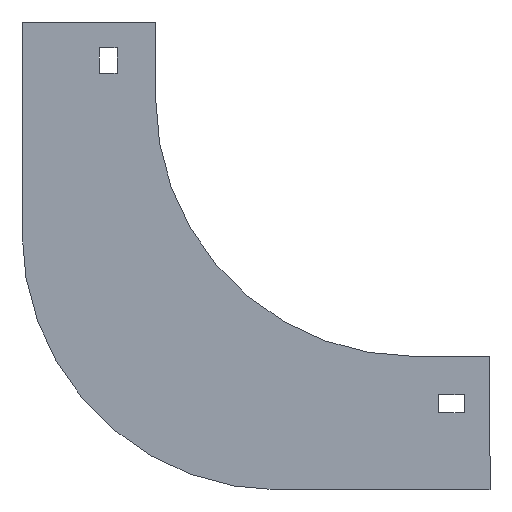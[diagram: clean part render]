
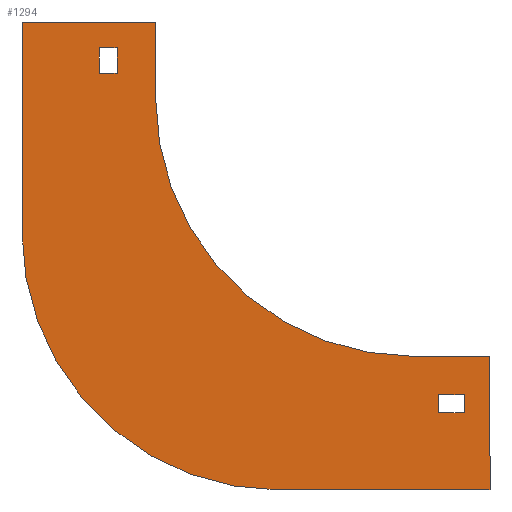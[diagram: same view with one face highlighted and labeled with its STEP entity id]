
A CAD part, left-side view. The second image highlights one B-rep face of the part: STEP entity #1294.
In plain terms, the highlighted planar face has unit normal (-1, 0, 0).
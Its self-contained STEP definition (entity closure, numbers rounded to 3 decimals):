
#3 = EDGE_CURVE ( 'NONE', #228, #414, #133, .T. ) ;
#11 = DIRECTION ( 'NONE',  ( 0., 0., 1. ) ) ;
#18 = EDGE_CURVE ( 'NONE', #216, #292, #1133, .T. ) ;
#34 = LINE ( 'NONE', #1108, #1388 ) ;
#37 = CARTESIAN_POINT ( 'NONE',  ( -39.5, 22., -20. ) ) ;
#43 = VECTOR ( 'NONE', #1386, 1000. ) ;
#71 = LINE ( 'NONE', #601, #259 ) ;
#76 = VECTOR ( 'NONE', #391, 1000. ) ;
#82 = DIRECTION ( 'NONE',  ( 1., 0., 0. ) ) ;
#86 = EDGE_CURVE ( 'NONE', #1118, #1012, #1318, .T. ) ;
#95 = ORIENTED_EDGE ( 'NONE', *, *, #97, .F. ) ;
#96 = VECTOR ( 'NONE', #192, 1000. ) ;
#97 = EDGE_CURVE ( 'NONE', #838, #341, #1176, .T. ) ;
#115 = CARTESIAN_POINT ( 'NONE',  ( -39.5, 0., 0. ) ) ;
#129 = ORIENTED_EDGE ( 'NONE', *, *, #1192, .F. ) ;
#133 = LINE ( 'NONE', #1310, #1055 ) ;
#145 = LINE ( 'NONE', #777, #793 ) ;
#146 = DIRECTION ( 'NONE',  ( 0., 1., 0. ) ) ;
#171 = DIRECTION ( 'NONE',  ( 0., -1., 0. ) ) ;
#173 = CARTESIAN_POINT ( 'NONE',  ( -39.5, 15., -10. ) ) ;
#174 = ORIENTED_EDGE ( 'NONE', *, *, #873, .F. ) ;
#187 = VECTOR ( 'NONE', #524, 1000. ) ;
#191 = AXIS2_PLACEMENT_3D ( 'NONE', #627, #657, #857 ) ;
#192 = DIRECTION ( 'NONE',  ( 0., 0., -1. ) ) ;
#200 = VERTEX_POINT ( 'NONE', #236 ) ;
#203 = ORIENTED_EDGE ( 'NONE', *, *, #558, .F. ) ;
#216 = VERTEX_POINT ( 'NONE', #37 ) ;
#228 = VERTEX_POINT ( 'NONE', #942 ) ;
#230 = EDGE_CURVE ( 'NONE', #911, #658, #623, .T. ) ;
#233 = EDGE_CURVE ( 'NONE', #1019, #1333, #1377, .T. ) ;
#236 = CARTESIAN_POINT ( 'NONE',  ( -39.5, 15., -10. ) ) ;
#238 = VERTEX_POINT ( 'NONE', #640 ) ;
#241 = CARTESIAN_POINT ( 'NONE',  ( -39.5, -100., -130. ) ) ;
#248 = CARTESIAN_POINT ( 'NONE',  ( -39.5, 0., -30. ) ) ;
#259 = VECTOR ( 'NONE', #816, 1000. ) ;
#290 = VECTOR ( 'NONE', #146, 1000. ) ;
#292 = VERTEX_POINT ( 'NONE', #665 ) ;
#309 = LINE ( 'NONE', #1193, #1302 ) ;
#310 = LINE ( 'NONE', #115, #642 ) ;
#316 = ORIENTED_EDGE ( 'NONE', *, *, #763, .F. ) ;
#330 = CARTESIAN_POINT ( 'NONE',  ( -39.5, 0., 0. ) ) ;
#341 = VERTEX_POINT ( 'NONE', #241 ) ;
#344 = ORIENTED_EDGE ( 'NONE', *, *, #985, .F. ) ;
#363 = ORIENTED_EDGE ( 'NONE', *, *, #936, .T. ) ;
#364 = DIRECTION ( 'NONE',  ( 0., 0., -1. ) ) ;
#373 = EDGE_CURVE ( 'NONE', #1279, #216, #1001, .T. ) ;
#391 = DIRECTION ( 'NONE',  ( 0., 0., 1. ) ) ;
#414 = VERTEX_POINT ( 'NONE', #785 ) ;
#425 = ORIENTED_EDGE ( 'NONE', *, *, #86, .F. ) ;
#427 = PLANE ( 'NONE',  #191 ) ;
#446 = VECTOR ( 'NONE', #1259, 1000. ) ;
#447 = CARTESIAN_POINT ( 'NONE',  ( -39.5, -110., -145. ) ) ;
#449 = ORIENTED_EDGE ( 'NONE', *, *, #1112, .F. ) ;
#463 = DIRECTION ( 'NONE',  ( -1., 0., 0. ) ) ;
#468 = ORIENTED_EDGE ( 'NONE', *, *, #18, .T. ) ;
#470 = DIRECTION ( 'NONE',  ( 0., -1., 0. ) ) ;
#487 = ORIENTED_EDGE ( 'NONE', *, *, #233, .F. ) ;
#514 = DIRECTION ( 'NONE',  ( 0., 0., -1. ) ) ;
#524 = DIRECTION ( 'NONE',  ( 0., -1., 0. ) ) ;
#535 = ORIENTED_EDGE ( 'NONE', *, *, #3, .F. ) ;
#558 = EDGE_CURVE ( 'NONE', #238, #1118, #622, .T. ) ;
#561 = DIRECTION ( 'NONE',  ( 0., -1., 0. ) ) ;
#572 = CARTESIAN_POINT ( 'NONE',  ( -39.5, -100., -30. ) ) ;
#584 = DIRECTION ( 'NONE',  ( 0., 1., 0. ) ) ;
#589 = CARTESIAN_POINT ( 'NONE',  ( -39.5, 22., -20. ) ) ;
#601 = CARTESIAN_POINT ( 'NONE',  ( -39.5, 52., -82. ) ) ;
#605 = AXIS2_PLACEMENT_3D ( 'NONE', #1367, #82, #826 ) ;
#622 = LINE ( 'NONE', #1164, #96 ) ;
#623 = LINE ( 'NONE', #852, #187 ) ;
#627 = CARTESIAN_POINT ( 'NONE',  ( -39.5, -100., -30. ) ) ;
#640 = CARTESIAN_POINT ( 'NONE',  ( -39.5, -130., -130. ) ) ;
#642 = VECTOR ( 'NONE', #970, 1000. ) ;
#650 = FACE_OUTER_BOUND ( 'NONE', #844, .T. ) ;
#657 = DIRECTION ( 'NONE',  ( -1., 0., 0. ) ) ;
#658 = VERTEX_POINT ( 'NONE', #330 ) ;
#665 = CARTESIAN_POINT ( 'NONE',  ( -39.5, 22., -10. ) ) ;
#671 = VECTOR ( 'NONE', #584, 1000. ) ;
#688 = CARTESIAN_POINT ( 'NONE',  ( -39.5, 52., 0. ) ) ;
#696 = CARTESIAN_POINT ( 'NONE',  ( -39.5, -48., -182. ) ) ;
#745 = FACE_BOUND ( 'NONE', #1152, .T. ) ;
#763 = EDGE_CURVE ( 'NONE', #1333, #228, #145, .T. ) ;
#764 = CARTESIAN_POINT ( 'NONE',  ( -39.5, 15., -20. ) ) ;
#773 = CARTESIAN_POINT ( 'NONE',  ( -39.5, -130., -182. ) ) ;
#777 = CARTESIAN_POINT ( 'NONE',  ( -39.5, -110., -152. ) ) ;
#785 = CARTESIAN_POINT ( 'NONE',  ( -39.5, -120., -152. ) ) ;
#793 = VECTOR ( 'NONE', #364, 1000. ) ;
#816 = DIRECTION ( 'NONE',  ( 0., 0., 1. ) ) ;
#826 = DIRECTION ( 'NONE',  ( 0., 0., -1. ) ) ;
#838 = VERTEX_POINT ( 'NONE', #248 ) ;
#840 = CARTESIAN_POINT ( 'NONE',  ( -39.5, -130., -182. ) ) ;
#844 = EDGE_LOOP ( 'NONE', ( #1205, #996, #129, #425, #203, #174, #95, #449 ) ) ;
#852 = CARTESIAN_POINT ( 'NONE',  ( -39.5, 52., 0. ) ) ;
#857 = DIRECTION ( 'NONE',  ( 0., 0., 1. ) ) ;
#873 = EDGE_CURVE ( 'NONE', #341, #238, #34, .T. ) ;
#882 = AXIS2_PLACEMENT_3D ( 'NONE', #572, #463, #11 ) ;
#911 = VERTEX_POINT ( 'NONE', #688 ) ;
#912 = CARTESIAN_POINT ( 'NONE',  ( -39.5, 22., -10. ) ) ;
#924 = ORIENTED_EDGE ( 'NONE', *, *, #373, .T. ) ;
#936 = EDGE_CURVE ( 'NONE', #200, #1279, #1022, .T. ) ;
#942 = CARTESIAN_POINT ( 'NONE',  ( -39.5, -110., -152. ) ) ;
#957 = EDGE_CURVE ( 'NONE', #1106, #911, #71, .T. ) ;
#970 = DIRECTION ( 'NONE',  ( 0., 0., -1. ) ) ;
#974 = VECTOR ( 'NONE', #514, 1000. ) ;
#985 = EDGE_CURVE ( 'NONE', #414, #1019, #1368, .T. ) ;
#996 = ORIENTED_EDGE ( 'NONE', *, *, #957, .F. ) ;
#1001 = LINE ( 'NONE', #589, #671 ) ;
#1012 = VERTEX_POINT ( 'NONE', #696 ) ;
#1019 = VERTEX_POINT ( 'NONE', #1406 ) ;
#1022 = LINE ( 'NONE', #173, #974 ) ;
#1043 = CARTESIAN_POINT ( 'NONE',  ( -39.5, -120., -145. ) ) ;
#1055 = VECTOR ( 'NONE', #171, 1000. ) ;
#1065 = EDGE_LOOP ( 'NONE', ( #487, #344, #535, #316 ) ) ;
#1089 = FACE_BOUND ( 'NONE', #1065, .T. ) ;
#1106 = VERTEX_POINT ( 'NONE', #1170 ) ;
#1108 = CARTESIAN_POINT ( 'NONE',  ( -39.5, -100., -130. ) ) ;
#1112 = EDGE_CURVE ( 'NONE', #658, #838, #310, .T. ) ;
#1118 = VERTEX_POINT ( 'NONE', #840 ) ;
#1133 = LINE ( 'NONE', #912, #446 ) ;
#1152 = EDGE_LOOP ( 'NONE', ( #1237, #363, #924, #468 ) ) ;
#1164 = CARTESIAN_POINT ( 'NONE',  ( -39.5, -130., -130. ) ) ;
#1170 = CARTESIAN_POINT ( 'NONE',  ( -39.5, 52., -82. ) ) ;
#1176 = CIRCLE ( 'NONE', #882, 100. ) ;
#1192 = EDGE_CURVE ( 'NONE', #1012, #1106, #1222, .T. ) ;
#1193 = CARTESIAN_POINT ( 'NONE',  ( -39.5, 22., -10. ) ) ;
#1205 = ORIENTED_EDGE ( 'NONE', *, *, #230, .F. ) ;
#1222 = CIRCLE ( 'NONE', #605, 100. ) ;
#1237 = ORIENTED_EDGE ( 'NONE', *, *, #1321, .T. ) ;
#1241 = CARTESIAN_POINT ( 'NONE',  ( -39.5, -120., -152. ) ) ;
#1259 = DIRECTION ( 'NONE',  ( 0., 0., 1. ) ) ;
#1279 = VERTEX_POINT ( 'NONE', #764 ) ;
#1294 = ADVANCED_FACE ( 'NONE', ( #745, #650, #1089 ), #427, .T. ) ;
#1302 = VECTOR ( 'NONE', #561, 1000. ) ;
#1310 = CARTESIAN_POINT ( 'NONE',  ( -39.5, -120., -152. ) ) ;
#1318 = LINE ( 'NONE', #773, #290 ) ;
#1321 = EDGE_CURVE ( 'NONE', #292, #200, #309, .T. ) ;
#1333 = VERTEX_POINT ( 'NONE', #447 ) ;
#1367 = CARTESIAN_POINT ( 'NONE',  ( -39.5, -48., -82. ) ) ;
#1368 = LINE ( 'NONE', #1241, #76 ) ;
#1377 = LINE ( 'NONE', #1043, #43 ) ;
#1386 = DIRECTION ( 'NONE',  ( 0., 1., 0. ) ) ;
#1388 = VECTOR ( 'NONE', #470, 1000. ) ;
#1406 = CARTESIAN_POINT ( 'NONE',  ( -39.5, -120., -145. ) ) ;
